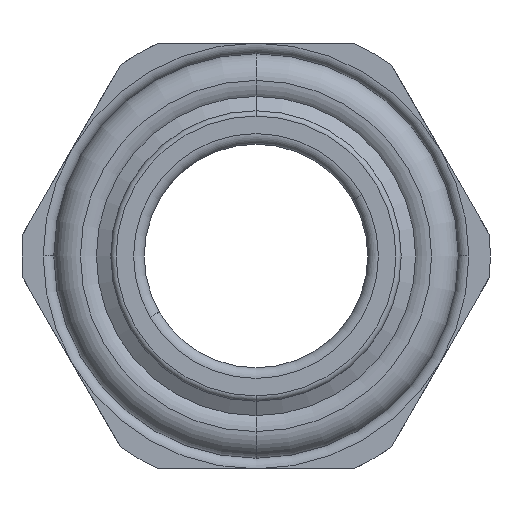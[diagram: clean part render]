
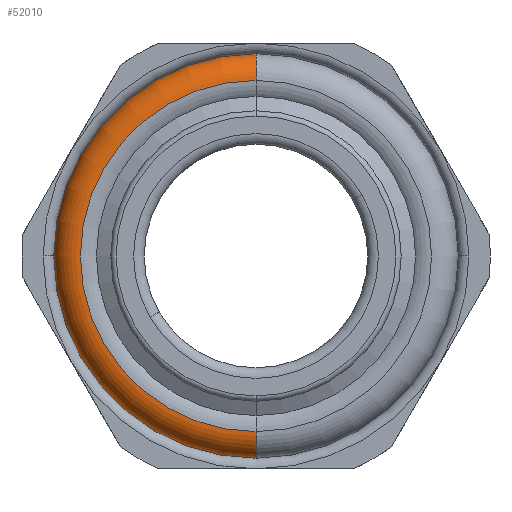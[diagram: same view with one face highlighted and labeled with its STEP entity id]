
A CAD part, left-side view. The second image highlights one B-rep face of the part: STEP entity #52010.
In plain terms, the highlighted toroidal (fillet/blend) face has major radius 3.3 mm and minor radius 0.5 mm.
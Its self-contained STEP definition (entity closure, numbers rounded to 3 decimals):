
#51050=CARTESIAN_POINT('',(46.955,50.909,0.));
#51060=DIRECTION('',(1.,0.,0.));
#51070=DIRECTION('',(0.,0.,1.));
#51080=AXIS2_PLACEMENT_3D('',#51050,#51060,#51070);
#51090=CIRCLE('',#51080,3.8);
#51120=CARTESIAN_POINT('',(46.955,50.909,-3.8));
#51130=VERTEX_POINT('',#51120);
#51330=CARTESIAN_POINT('',(46.955,54.709,0.));
#51340=VERTEX_POINT('',#51330);
#51370=EDGE_CURVE('',#51130,#51340,#51090,.T.);
#51640=CARTESIAN_POINT('',(46.955,50.909,0.));
#51650=DIRECTION('',(1.,0.,0.));
#51660=DIRECTION('',(0.,0.,1.));
#51670=AXIS2_PLACEMENT_3D('',#51640,#51650,#51660);
#51680=TOROIDAL_SURFACE('',#51670,3.3,0.5);
#51690=CARTESIAN_POINT('',(46.955,50.909,-3.3));
#51700=DIRECTION('',(0.,1.,0.));
#51710=DIRECTION('',(1.,0.,0.));
#51720=AXIS2_PLACEMENT_3D('',#51690,#51700,#51710);
#51730=CIRCLE('',#51720,0.5);
#51740=CARTESIAN_POINT('',(46.455,50.909,-3.3));
#51750=VERTEX_POINT('',#51740);
#51760=EDGE_CURVE('',#51130,#51750,#51730,.T.);
#51770=ORIENTED_EDGE('',*,*,#51760,.T.);
#51780=ORIENTED_EDGE('',*,*,#51370,.F.);
#51790=CARTESIAN_POINT('',(46.955,50.909,3.8));
#51800=VERTEX_POINT('',#51790);
#51810=EDGE_CURVE('',#51340,#51800,#51090,.T.);
#51820=ORIENTED_EDGE('',*,*,#51810,.F.);
#51830=CARTESIAN_POINT('',(46.955,50.909,3.3));
#51840=DIRECTION('',(0.,-1.,0.));
#51850=DIRECTION('',(1.,0.,0.));
#51860=AXIS2_PLACEMENT_3D('',#51830,#51840,#51850);
#51870=CIRCLE('',#51860,0.5);
#51880=CARTESIAN_POINT('',(46.455,50.909,3.3));
#51890=VERTEX_POINT('',#51880);
#51900=EDGE_CURVE('',#51800,#51890,#51870,.T.);
#51910=ORIENTED_EDGE('',*,*,#51900,.F.);
#51920=CARTESIAN_POINT('',(46.455,50.909,0.));
#51930=DIRECTION('',(1.,0.,0.));
#51940=DIRECTION('',(0.,0.,1.));
#51950=AXIS2_PLACEMENT_3D('',#51920,#51930,#51940);
#51960=CIRCLE('',#51950,3.3);
#51970=EDGE_CURVE('',#51750,#51890,#51960,.T.);
#51980=ORIENTED_EDGE('',*,*,#51970,.T.);
#51990=EDGE_LOOP('',(#51980,#51910,#51820,#51780,#51770));
#52000=FACE_OUTER_BOUND('',#51990,.T.);
#52010=ADVANCED_FACE('',(#52000),#51680,.T.);
